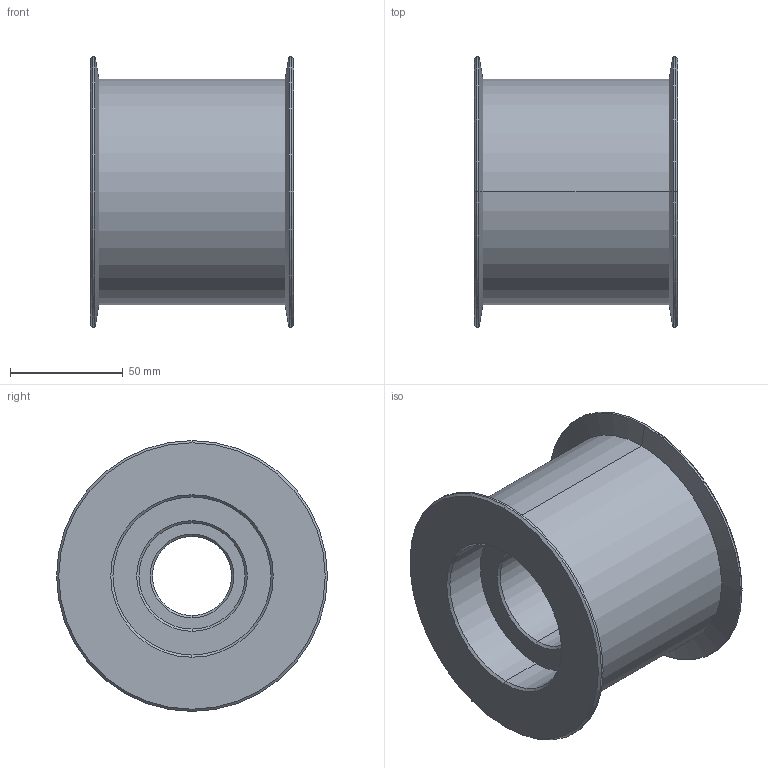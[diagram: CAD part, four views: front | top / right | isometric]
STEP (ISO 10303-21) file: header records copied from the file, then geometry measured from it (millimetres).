
FILE_DESCRIPTION (( 'STEP AP203' ), '1' );
FILE_NAME ('YWSD-2026-03-01-05=005 驱动轮.STEP', '2026-07-24T07:40:41', ( 'Windows 用户' ), ( '' ), 'SwSTEP 2.0', 'SolidWorks 2024', '' );
FILE_SCHEMA (( 'CONFIG_CONTROL_DESIGN' ));
Length unit declared in the file: millimetre
Products named in the file (1): YWSD-2026-03-01-05=005 驱动轮
Bounding box: 90 x 120 x 120 mm (x, y, z)
Volume: 554551.3 mm3; surface area: 67762.5 mm2
Topology: 1 solids, 1 shells, 32 faces, 64 edges, 36 vertices
Faces by surface type: cone 16, cylinder 12, plane 4
Entity records: 905 total; most frequent: DIRECTION 166, CARTESIAN_POINT 133, ORIENTED_EDGE 128, AXIS2_PLACEMENT_3D 69, EDGE_CURVE 64, EDGE_LOOP 36, VERTEX_POINT 36, CIRCLE 36
